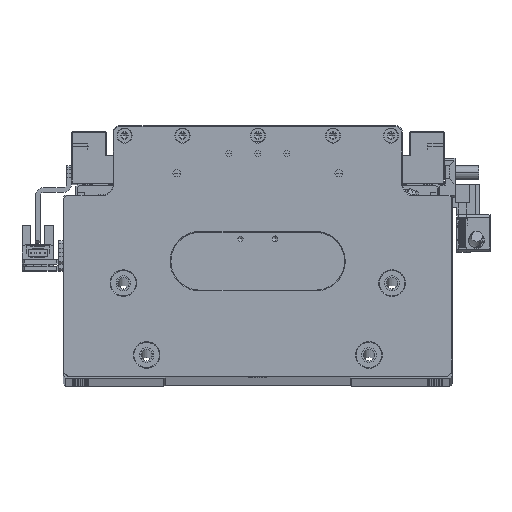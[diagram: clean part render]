
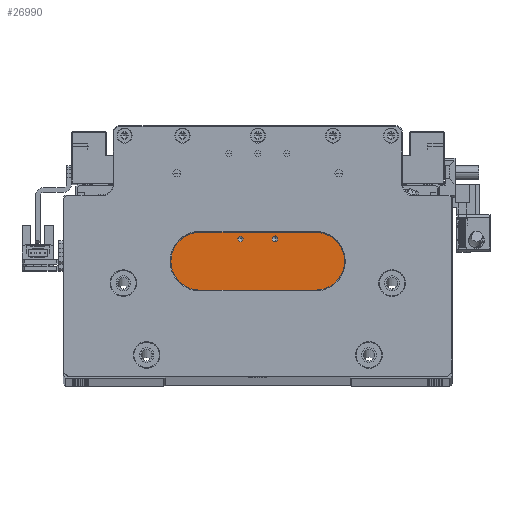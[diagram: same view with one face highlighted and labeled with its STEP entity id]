
A CAD part, top view. The second image highlights one B-rep face of the part: STEP entity #26990.
In plain terms, the highlighted planar face has unit normal (0, 0, 1).
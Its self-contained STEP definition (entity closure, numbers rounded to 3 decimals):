
#1936 = EDGE_LOOP ( 'NONE', ( #101184, #53181, #63266, #74054, #76582, #9144, #34859, #37780 ) ) ;
#3484 = AXIS2_PLACEMENT_3D ( 'NONE', #107149, #51277, #116510 ) ;
#4067 = EDGE_CURVE ( 'NONE', #20371, #73632, #34768, .T. ) ;
#5209 = CARTESIAN_POINT ( 'NONE',  ( -45., -8., 125. ) ) ;
#8360 = EDGE_CURVE ( 'NONE', #90504, #109060, #119666, .T. ) ;
#9144 = ORIENTED_EDGE ( 'NONE', *, *, #20937, .T. ) ;
#9328 = LINE ( 'NONE', #15549, #31188 ) ;
#12308 = CARTESIAN_POINT ( 'NONE',  ( -7.5, -8., 125. ) ) ;
#14209 = VECTOR ( 'NONE', #36244, 1000. ) ;
#15549 = CARTESIAN_POINT ( 'NONE',  ( 0., -8., 125. ) ) ;
#15585 = LINE ( 'NONE', #91884, #108995 ) ;
#16088 = DIRECTION ( 'NONE',  ( 0., -1., 0. ) ) ;
#17125 = CARTESIAN_POINT ( 'NONE',  ( 33.5, 0., 125. ) ) ;
#19230 = FACE_OUTER_BOUND ( 'NONE', #1936, .T. ) ;
#20371 = VERTEX_POINT ( 'NONE', #26645 ) ;
#20614 = CIRCLE ( 'NONE', #53853, 1.25 ) ;
#20778 = CARTESIAN_POINT ( 'NONE',  ( -33.5, 0., 125. ) ) ;
#20937 = EDGE_CURVE ( 'NONE', #73632, #68469, #117677, .T. ) ;
#21003 = CARTESIAN_POINT ( 'NONE',  ( -45., -40.2, 125. ) ) ;
#21693 = DIRECTION ( 'NONE',  ( 1., 0., 0. ) ) ;
#22575 = VECTOR ( 'NONE', #107322, 1000. ) ;
#23108 = CARTESIAN_POINT ( 'NONE',  ( 33.5, 0., 125. ) ) ;
#23271 = CARTESIAN_POINT ( 'NONE',  ( -45., 0., 125. ) ) ;
#23711 = EDGE_CURVE ( 'NONE', #109060, #29721, #9328, .T. ) ;
#24795 = VERTEX_POINT ( 'NONE', #21003 ) ;
#25334 = EDGE_CURVE ( 'NONE', #90823, #29911, #35163, .T. ) ;
#25351 = VERTEX_POINT ( 'NONE', #59632 ) ;
#26135 = VERTEX_POINT ( 'NONE', #52445 ) ;
#26645 = CARTESIAN_POINT ( 'NONE',  ( 45., -8., 125. ) ) ;
#26990 = ADVANCED_FACE ( 'NONE', ( #19230, #115548, #93657 ), #46920, .T. ) ;
#29721 = VERTEX_POINT ( 'NONE', #5209 ) ;
#29911 = VERTEX_POINT ( 'NONE', #82982 ) ;
#30163 = DIRECTION ( 'NONE',  ( -1., 0., 0. ) ) ;
#31188 = VECTOR ( 'NONE', #80757, 1000. ) ;
#34768 = LINE ( 'NONE', #76813, #59567 ) ;
#34859 = ORIENTED_EDGE ( 'NONE', *, *, #63510, .T. ) ;
#35163 = CIRCLE ( 'NONE', #50998, 1.25 ) ;
#35635 = EDGE_CURVE ( 'NONE', #29721, #24795, #47438, .T. ) ;
#35658 = CARTESIAN_POINT ( 'NONE',  ( 7.5, -8., 125. ) ) ;
#36244 = DIRECTION ( 'NONE',  ( 0., 1., 0. ) ) ;
#37780 = ORIENTED_EDGE ( 'NONE', *, *, #8360, .T. ) ;
#39369 = AXIS2_PLACEMENT_3D ( 'NONE', #92999, #112199, #56349 ) ;
#41480 = ORIENTED_EDGE ( 'NONE', *, *, #73215, .T. ) ;
#41484 = ORIENTED_EDGE ( 'NONE', *, *, #25334, .T. ) ;
#44942 = DIRECTION ( 'NONE',  ( -1., 0., 0. ) ) ;
#45056 = DIRECTION ( 'NONE',  ( 1., 0., 0. ) ) ;
#45361 = CARTESIAN_POINT ( 'NONE',  ( 8.75, -8., 125. ) ) ;
#45638 = CARTESIAN_POINT ( 'NONE',  ( 45., 0., 125. ) ) ;
#46920 = PLANE ( 'NONE',  #39369 ) ;
#47438 = LINE ( 'NONE', #23271, #22575 ) ;
#50998 = AXIS2_PLACEMENT_3D ( 'NONE', #12308, #77582, #21693 ) ;
#51277 = DIRECTION ( 'NONE',  ( 0., 0., -1. ) ) ;
#52022 = CARTESIAN_POINT ( 'NONE',  ( -7.5, -8., 125. ) ) ;
#52445 = CARTESIAN_POINT ( 'NONE',  ( 6.25, -8., 125. ) ) ;
#53181 = ORIENTED_EDGE ( 'NONE', *, *, #35635, .T. ) ;
#53721 = EDGE_CURVE ( 'NONE', #26135, #99476, #20614, .T. ) ;
#53853 = AXIS2_PLACEMENT_3D ( 'NONE', #35658, #100896, #45056 ) ;
#54667 = DIRECTION ( 'NONE',  ( 0., 1., 0. ) ) ;
#54848 = DIRECTION ( 'NONE',  ( -1., 0., 0. ) ) ;
#56349 = DIRECTION ( 'NONE',  ( 1., 0., 0. ) ) ;
#56907 = EDGE_LOOP ( 'NONE', ( #96754, #101246 ) ) ;
#56981 = LINE ( 'NONE', #119519, #97739 ) ;
#59567 = VECTOR ( 'NONE', #30163, 1000. ) ;
#59632 = CARTESIAN_POINT ( 'NONE',  ( 45., -40.2, 125. ) ) ;
#61324 = DIRECTION ( 'NONE',  ( 1., 0., 0. ) ) ;
#63266 = ORIENTED_EDGE ( 'NONE', *, *, #120712, .F. ) ;
#63510 = EDGE_CURVE ( 'NONE', #68469, #90504, #15585, .T. ) ;
#66781 = LINE ( 'NONE', #45638, #14209 ) ;
#68469 = VERTEX_POINT ( 'NONE', #23108 ) ;
#70422 = EDGE_CURVE ( 'NONE', #99476, #26135, #78005, .T. ) ;
#72693 = CARTESIAN_POINT ( 'NONE',  ( -33.5, -8., 125. ) ) ;
#73107 = CIRCLE ( 'NONE', #91172, 1.25 ) ;
#73215 = EDGE_CURVE ( 'NONE', #29911, #90823, #73107, .T. ) ;
#73632 = VERTEX_POINT ( 'NONE', #109487 ) ;
#74054 = ORIENTED_EDGE ( 'NONE', *, *, #80348, .T. ) ;
#74497 = EDGE_LOOP ( 'NONE', ( #41484, #41480 ) ) ;
#76582 = ORIENTED_EDGE ( 'NONE', *, *, #4067, .T. ) ;
#76813 = CARTESIAN_POINT ( 'NONE',  ( 0., -8., 125. ) ) ;
#77582 = DIRECTION ( 'NONE',  ( 0., 0., -1. ) ) ;
#78005 = CIRCLE ( 'NONE', #3484, 1.25 ) ;
#80348 = EDGE_CURVE ( 'NONE', #25351, #20371, #66781, .T. ) ;
#80757 = DIRECTION ( 'NONE',  ( -1., 0., 0. ) ) ;
#81074 = CARTESIAN_POINT ( 'NONE',  ( -6.25, -8., 125. ) ) ;
#82982 = CARTESIAN_POINT ( 'NONE',  ( -8.75, -8., 125. ) ) ;
#90504 = VERTEX_POINT ( 'NONE', #20778 ) ;
#90823 = VERTEX_POINT ( 'NONE', #81074 ) ;
#91172 = AXIS2_PLACEMENT_3D ( 'NONE', #52022, #117203, #61324 ) ;
#91884 = CARTESIAN_POINT ( 'NONE',  ( 0., 0., 125. ) ) ;
#92869 = VECTOR ( 'NONE', #54667, 1000. ) ;
#92999 = CARTESIAN_POINT ( 'NONE',  ( 0., 0., 125. ) ) ;
#93657 = FACE_BOUND ( 'NONE', #74497, .T. ) ;
#94815 = VECTOR ( 'NONE', #16088, 1000. ) ;
#96754 = ORIENTED_EDGE ( 'NONE', *, *, #70422, .T. ) ;
#97739 = VECTOR ( 'NONE', #44942, 1000. ) ;
#99476 = VERTEX_POINT ( 'NONE', #45361 ) ;
#100896 = DIRECTION ( 'NONE',  ( 0., 0., -1. ) ) ;
#101184 = ORIENTED_EDGE ( 'NONE', *, *, #23711, .T. ) ;
#101246 = ORIENTED_EDGE ( 'NONE', *, *, #53721, .T. ) ;
#107149 = CARTESIAN_POINT ( 'NONE',  ( 7.5, -8., 125. ) ) ;
#107322 = DIRECTION ( 'NONE',  ( 0., -1., 0. ) ) ;
#108995 = VECTOR ( 'NONE', #54848, 1000. ) ;
#109060 = VERTEX_POINT ( 'NONE', #72693 ) ;
#109487 = CARTESIAN_POINT ( 'NONE',  ( 33.5, -8., 125. ) ) ;
#110629 = CARTESIAN_POINT ( 'NONE',  ( -33.5, 0., 125. ) ) ;
#112199 = DIRECTION ( 'NONE',  ( 0., 0., 1. ) ) ;
#115548 = FACE_BOUND ( 'NONE', #56907, .T. ) ;
#116510 = DIRECTION ( 'NONE',  ( 1., 0., 0. ) ) ;
#117203 = DIRECTION ( 'NONE',  ( 0., 0., -1. ) ) ;
#117677 = LINE ( 'NONE', #17125, #92869 ) ;
#119519 = CARTESIAN_POINT ( 'NONE',  ( 45., -40.2, 125. ) ) ;
#119666 = LINE ( 'NONE', #110629, #94815 ) ;
#120712 = EDGE_CURVE ( 'NONE', #25351, #24795, #56981, .T. ) ;
